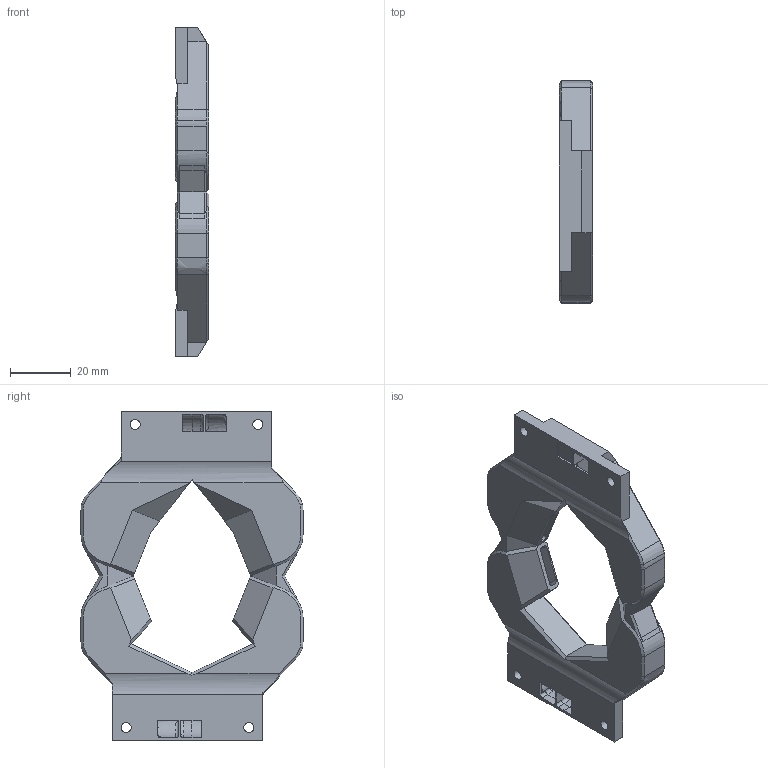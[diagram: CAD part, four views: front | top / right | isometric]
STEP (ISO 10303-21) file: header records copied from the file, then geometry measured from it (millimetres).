
FILE_DESCRIPTION(/* description */ (''),/* implementation_level */ '2;1');
FILE_NAME(/* name */ 'C:/Users/Martin/Documents/icarus-2.1/icarus-2-current-step-files/4-fan-ducts/icarus-fan-duct-dual-5015-2.5.step',/* time_stamp */ '2022-09-18T10:43:31+02:00',/* author */ (''),/* organization */ (''),/* preprocessor_version */ 'ST-DEVELOPER v19',/* originating_system */ 'Autodesk Translation Framework v11.7.0.108',/* authorisation */ '');
FILE_SCHEMA (('AUTOMOTIVE_DESIGN { 1 0 10303 214 3 1 1 }'));
Length unit declared in the file: millimetre
Products named in the file (1): icarus-fan-duct-2.1
Bounding box: 11 x 73.3 x 108.8 mm (x, y, z)
Volume: 18307.1 mm3; surface area: 26075.3 mm2
Topology: 1 solids, 1 shells, 471 faces, 1234 edges, 763 vertices
Faces by surface type: plane 213, bspline 124, cylinder 108, torus 18, cone 8
Full cylindrical faces by diameter (mm): 3.3 x6
Entity records: 18296 total; most frequent: CARTESIAN_POINT 7422, ORIENTED_EDGE 2452, DIRECTION 1960, EDGE_CURVE 1226, VERTEX_POINT 759, LINE 668, VECTOR 668, AXIS2_PLACEMENT_3D 646
